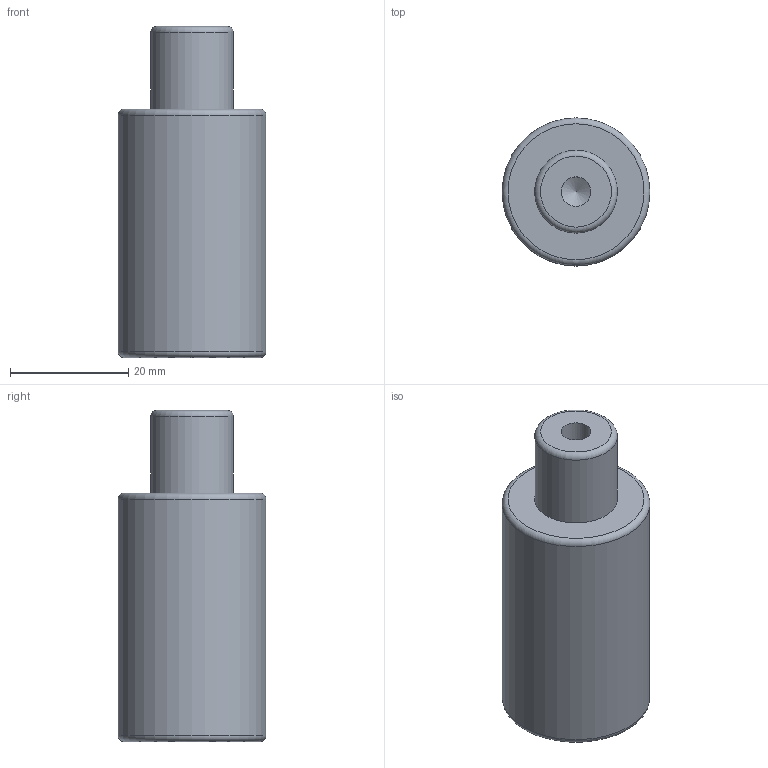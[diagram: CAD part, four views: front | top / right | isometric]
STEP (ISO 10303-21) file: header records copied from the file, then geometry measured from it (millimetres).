
FILE_DESCRIPTION(/* description */ (''),/* implementation_level */ '2;1');
FILE_NAME(/* name */ 'NV5-SMLX.25x13.stp',/* time_stamp */ '2018-08-31T16:08:38+02:00',/* author */ (''),/* organization */ (''),/* preprocessor_version */ 'ST-DEVELOPER v16',/* originating_system */ 'SIEMENS PLM Software NX 10.0',/* authorisation */ '');
FILE_SCHEMA (('AUTOMOTIVE_DESIGN { 1 0 10303 214 3 1 1 1 }'));
Length unit declared in the file: millimetre
Products named in the file (1): NV5-SMLX.25x13
Bounding box: 25 x 25 x 56 mm (x, y, z)
Volume: 22278 mm3; surface area: 5160.7 mm2
Topology: 1 solids, 1 shells, 12 faces, 24 edges, 15 vertices
Faces by surface type: cylinder 4, torus 3, plane 3, cone 2
Full cylindrical faces by diameter (mm): 5 x2, 14 x1, 25 x1
Entity records: 266 total; most frequent: DIRECTION 48, CARTESIAN_POINT 37, FACE_BOUND 24, AXIS2_PLACEMENT_3D 24, EDGE_LOOP 22, ORIENTED_EDGE 22, VERTEX_POINT 13, ADVANCED_FACE 12
